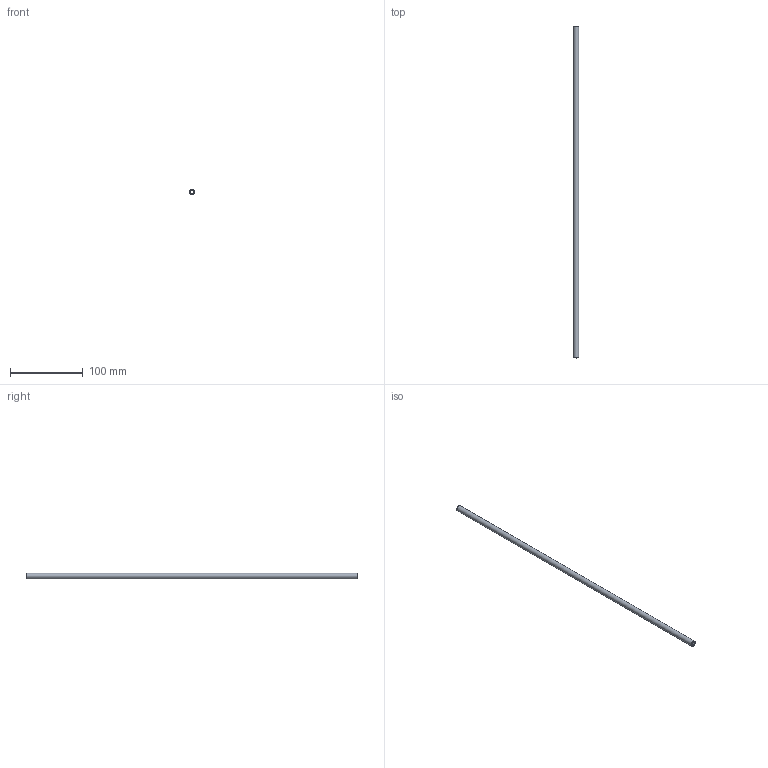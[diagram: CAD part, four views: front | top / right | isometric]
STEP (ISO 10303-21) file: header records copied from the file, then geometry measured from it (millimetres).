
FILE_DESCRIPTION(/* description */ (''),/* implementation_level */ '2;1');
FILE_NAME(/* name */ 'C:/Users/drich/Desktop/312T-18 v1.step',/* time_stamp */ '2019-12-27T17:30:17-06:00',/* author */ (''),/* organization */ (''),/* preprocessor_version */ 'ST-DEVELOPER v18',/* originating_system */ 'Autodesk Translation Framework v8.12.0.6',/* authorisation */ '');
FILE_SCHEMA (('AUTOMOTIVE_DESIGN { 1 0 10303 214 3 1 1 }'));
Length unit declared in the file: inch
Products named in the file (1): 312T-18
Bounding box: 7.82 x 457.2 x 7.82 mm (x, y, z)
Volume: 11730.3 mm3; surface area: 18934.8 mm2
Topology: 1 solids, 1 shells, 6 faces, 14 edges, 10 vertices
Faces by surface type: cone 2, cylinder 2, plane 2
Full cylindrical faces by diameter (mm): 5.334 x1, 7.818 x1
Entity records: 230 total; most frequent: DIRECTION 38, CARTESIAN_POINT 31, ORIENTED_EDGE 28, AXIS2_PLACEMENT_3D 17, EDGE_CURVE 14, CIRCLE 10, VERTEX_POINT 10, EDGE_LOOP 8
